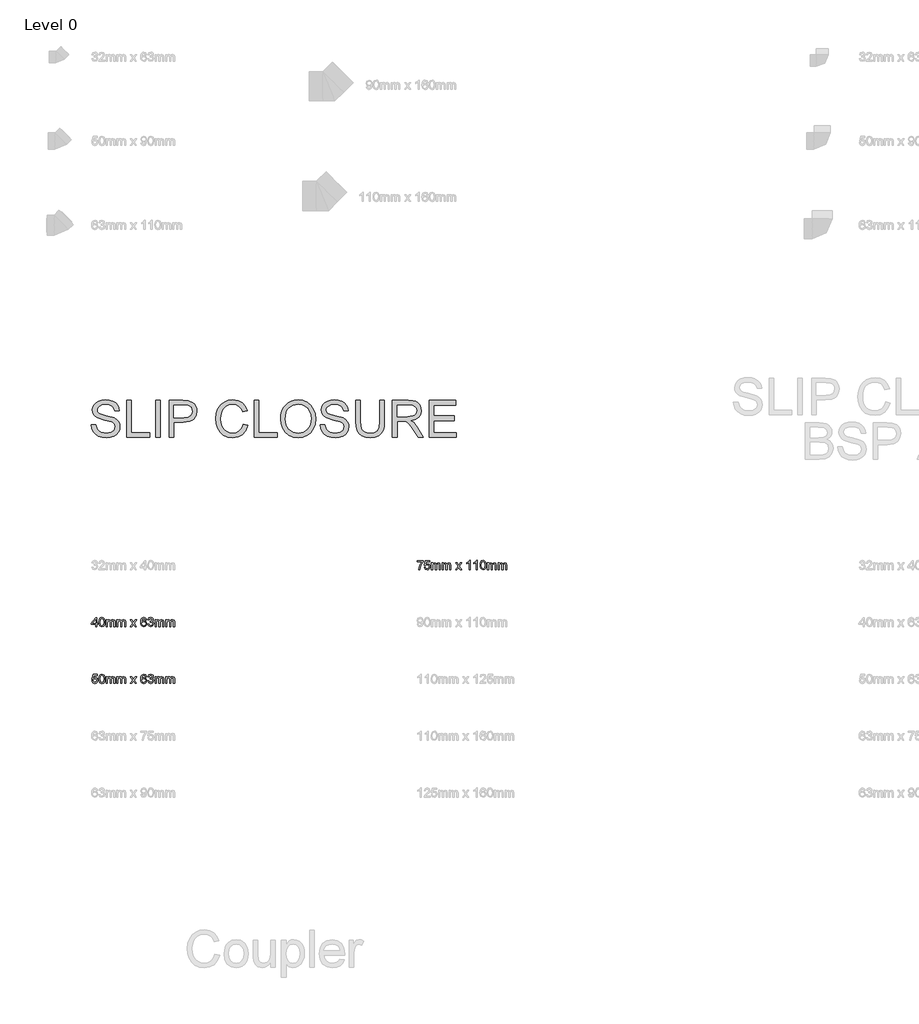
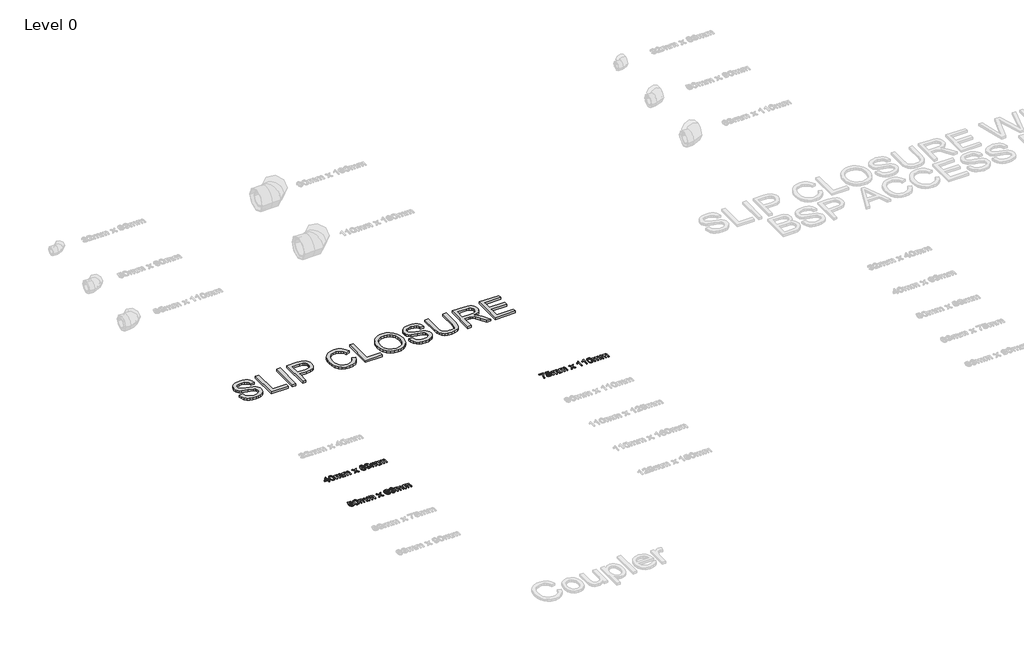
# One storey, part 11 of 21: 4 proxies.
"""IFC4 building model written with IfcOpenShell, lengths in millimetres."""

from ifc_helpers import new_model, si_unit, origin, origin_with_axes, place, context, project, spatial, polyline, outline, extrude, element, save

model = new_model("IFC4")

# Units and contexts
model_context = context("Model", 3, world=origin())
ifc_project = project(units=[si_unit("LENGTHUNIT", "METRE", prefix="MILLI")], contexts=[model_context])

# Site, building, storey
site = spatial("IfcSite", under=ifc_project)
building = spatial("IfcBuilding", under=site)
storey = spatial("IfcBuildingStorey", under=building, Name="Level 0", Elevation=0.0)

# Proxies
placement = place(None, origin())
element("IfcBuildingElementProxy", 1, Name="200mm Arial", ObjectType="200mm Arial", at=placement, inside=storey, context=model_context, shape_type="SweptSolid", body=[
    extrude(outline(polyline([(-7441.2220405, -4384.1475499), (-7416.1079629, -4384.1475499), (-7408.0145591, -4409.2861529), (-7399.884367, -4418.1766344), (-7388.2470332, -4425.1786551), (-7374.0222627, -4429.7219977), (-7358.1297605, -4431.2364452), (-7331.8875115, -4426.650183), (-7314.9404143, -4414.0440933), (-7309.3731334, -4397.195098), (-7313.5424627, -4381.523325), (-7319.8945585, -4375.3245133), (-7330.6121873, -4370.1189831), (-7367.1796576, -4360.5295258), (-7406.5430311, -4348.1441653), (-7419.0448875, -4339.6951421), (-7427.9047123, -4329.4557599), (-7433.1838189, -4317.6467479), (-7434.9435211, -4304.4888352), (-7432.766886, -4289.7796867), (-7426.2369805, -4276.0638197), (-7415.5254831, -4264.4387486), (-7400.8040719, -4256.0019882), (-7383.1334734, -4250.8700344), (-7363.574414, -4249.1593831), (-7342.3844111, -4250.9497421), (-7323.8431586, -4256.3208193), (-7308.612844, -4265.1622499), (-7297.3556549, -4277.3636694), (-7290.2310069, -4292.1647883), (-7287.3983156, -4308.8053173), (-7312.5123931, -4308.8053173), (-7317.1231808, -4293.8202573), (-7326.7371636, -4283.0045267), (-7341.7590117, -4276.4562271), (-7362.5933954, -4274.2734606), (-7383.9182884, -4276.4317017), (-7398.547729, -4282.9064248), (-7407.0090149, -4292.4345685), (-7409.8294436, -4303.7530712), (-7407.8306181, -4313.4038422), (-7401.8341415, -4321.1661523), (-7387.658422, -4328.1068593), (-7360.8275618, -4335.194719), (-7316.3874168, -4347.8008087), (-7302.0706758, -4356.9120195), (-7292.0826796, -4368.1569458), (-7286.2149618, -4381.4129604), (-7284.2590559, -4396.5574358), (-7286.5092674, -4412.0391365), (-7293.259902, -4426.6011321), (-7304.2350482, -4439.1336454), (-7319.1587945, -4448.526899), (-7337.1053045, -4454.3946168), (-7357.1487419, -4456.3505228), (-7381.753916, -4454.2413327), (-7402.0058198, -4447.9137624), (-7418.1374453, -4437.3432864), (-7430.3817844, -4422.5053792), (-7438.2421963, -4404.4301105), (-7441.2220405, -4384.1475499)])), origin_with_axes(), (0.0, 0.0, 1.0), 15.0),
    extrude(outline(polyline([(-7246.5879396, -4453.2112631), (-7246.5879396, -4252.2986428), (-7221.473862, -4252.2986428), (-7221.473862, -4428.0971856), (-7121.0175519, -4428.0971856), (-7121.0175519, -4453.2112631), (-7246.5879396, -4453.2112631)])), origin_with_axes(), (0.0, 0.0, 1.0), 15.0),
    extrude(outline(polyline([(-7089.624955, -4453.2112631), (-7089.624955, -4252.2986428), (-7064.5108774, -4252.2986428), (-7064.5108774, -4453.2112631), (-7089.624955, -4453.2112631)])), origin_with_axes(), (0.0, 0.0, 1.0), 15.0),
    extrude(outline(polyline([(-7014.2827223, -4453.2112631), (-7014.2827223, -4252.2986428), (-6939.8234065, -4252.2986428), (-6909.8042357, -4254.2116292), (-6885.4013967, -4263.6048828), (-6876.5293093, -4271.9312786), (-6869.5824709, -4283.0290521), (-6865.0943106, -4296.1195198), (-6863.5982571, -4310.423998), (-6867.6388277, -4334.1033358), (-6879.7605394, -4353.8340735), (-6889.4680256, -4361.6025149), (-6902.4282017, -4367.1514017), (-6938.1066239, -4371.5905111), (-6989.1686448, -4371.5905111), (-6989.1686448, -4453.2112631), (-7014.2827223, -4453.2112631)]), holes=[polyline([(-6989.1686448, -4346.4764336), (-6936.6350959, -4346.4764336), (-6914.3659725, -4344.1710397), (-6899.6506926, -4337.2548582), (-6891.4469242, -4326.1570847), (-6888.7123347, -4311.3069148), (-6890.3248841, -4300.0252003), (-6895.1625323, -4290.5093194), (-6902.6244054, -4283.3478832), (-6912.1096296, -4279.129503), (-6937.2237071, -4277.4127203), (-6989.1686448, -4277.4127203), (-6989.1686448, -4346.4764336)])]), origin_with_axes(), (0.0, 0.0, 1.0), 15.0),
    extrude(outline(polyline([(-6609.3182221, -4381.7931051), (-6584.2041445, -4388.2678282), (-6595.7924274, -4417.5328409), (-6613.9780607, -4438.9129162), (-6637.8658649, -4451.9911211), (-6666.5606605, -4456.3505228), (-6695.6907832, -4453.0518476), (-6718.8244293, -4443.1558219), (-6736.5563415, -4427.0058023), (-6749.4812622, -4404.9451453), (-6757.372331, -4379.0094647), (-6760.0026873, -4351.234374), (-6757.0289745, -4321.9387045), (-6748.1078361, -4296.6406859), (-6733.705256, -4276.1435274), (-6714.287218, -4261.250438), (-6691.2578051, -4252.1821468), (-6666.0211002, -4249.1593831), (-6638.4851329, -4253.071195), (-6615.7193688, -4264.8066306), (-6598.4350464, -4283.6421888), (-6587.3434042, -4308.8543682), (-6612.4574817, -4314.838582), (-6621.1640223, -4296.52419), (-6633.0588735, -4283.9610198), (-6648.2891881, -4276.6953504), (-6667.0021189, -4274.2734606), (-6688.5722666, -4276.9589992), (-6706.291916, -4285.0156149), (-6719.7380029, -4297.5971791), (-6728.487463, -4313.8575633), (-6733.2883231, -4332.2394003), (-6734.8886097, -4351.1853231), (-6732.9940175, -4374.3864143), (-6727.3102406, -4394.4482457), (-6717.6226814, -4410.6043967), (-6703.716742, -4422.0884463), (-6687.0455563, -4428.9494455), (-6669.0622581, -4431.2364452), (-6648.0991157, -4428.121711), (-6630.6308523, -4418.7775083), (-6617.4422828, -4403.3019391), (-6609.3182221, -4381.7931051)])), origin_with_axes(), (0.0, 0.0, 1.0), 15.0),
    extrude(outline(polyline([(-6549.6722879, -4453.2112631), (-6549.6722879, -4252.2986428), (-6524.5582104, -4252.2986428), (-6524.5582104, -4428.0971856), (-6424.1019002, -4428.0971856), (-6424.1019002, -4453.2112631), (-6549.6722879, -4453.2112631)])), origin_with_axes(), (0.0, 0.0, 1.0), 15.0),
    extrude(outline(polyline([(-6405.2663421, -4355.4037033), (-6403.592479, -4331.8377958), (-6398.5708898, -4310.975821), (-6390.2015744, -4292.8177789), (-6378.4845328, -4277.3636694), (-6364.1218066, -4265.0242941), (-6347.8154372, -4256.2104547), (-6329.5654245, -4250.922151), (-6309.3717687, -4249.1593831), (-6283.0191551, -4252.4703211), (-6259.3888682, -4262.4031349), (-6239.7684952, -4278.2588489), (-6225.4456228, -4299.3384872), (-6216.6900313, -4324.624243), (-6213.7715008, -4353.0983095), (-6216.8433155, -4381.9525206), (-6226.0587595, -4407.5938957), (-6240.9089294, -4428.7103222), (-6260.8849217, -4443.9896877), (-6284.3128734, -4453.260314), (-6309.5189215, -4456.3505228), (-6336.2762052, -4452.9353516), (-6360.0413821, -4442.689838), (-6379.6127043, -4426.5398184), (-6393.7884238, -4405.4111292), (-6402.3968625, -4381.1002607), (-6405.2663421, -4355.4037033)]), holes=[polyline([(-6380.1522645, -4355.648958), (-6375.1306753, -4387.0783431), (-6360.0659076, -4411.027461), (-6337.4227708, -4426.1841992), (-6309.6660743, -4431.2364452), (-6281.5047075, -4426.1351482), (-6258.8247825, -4410.8312572), (-6250.1013807, -4399.5587398), (-6243.8703794, -4386.1463754), (-6238.8855784, -4352.9021057), (-6241.019294, -4330.6697705), (-6247.4204407, -4311.4540676), (-6257.9234716, -4295.7393751), (-6272.3628399, -4284.0100708), (-6289.7820524, -4276.7076132), (-6309.2246159, -4274.2734606), (-6336.239417, -4278.9639561), (-6359.2075163, -4293.0354424), (-6368.3708436, -4303.9845303), (-6374.9160775, -4318.0698122), (-6380.1522645, -4355.648958)])]), origin_with_axes(), (0.0, 0.0, 1.0), 15.0),
    extrude(outline(polyline([(-6188.6574233, -4384.1475499), (-6163.5433458, -4384.1475499), (-6155.4499419, -4409.2861529), (-6147.3197498, -4418.1766344), (-6135.682416, -4425.1786551), (-6121.4576455, -4429.7219977), (-6105.5651433, -4431.2364452), (-6079.3228943, -4426.650183), (-6062.3757971, -4414.0440933), (-6056.8085162, -4397.195098), (-6060.9778455, -4381.523325), (-6067.3299413, -4375.3245133), (-6078.0475701, -4370.1189831), (-6114.6150404, -4360.5295258), (-6153.9784139, -4348.1441653), (-6166.4802704, -4339.6951421), (-6175.3400951, -4329.4557599), (-6180.6192017, -4317.6467479), (-6182.3789039, -4304.4888352), (-6180.2022688, -4289.7796867), (-6173.6723634, -4276.0638197), (-6162.9608659, -4264.4387486), (-6148.2394548, -4256.0019882), (-6130.5688563, -4250.8700344), (-6111.0097969, -4249.1593831), (-6089.8197939, -4250.9497421), (-6071.2785414, -4256.3208193), (-6056.0482268, -4265.1622499), (-6044.7910377, -4277.3636694), (-6037.6663898, -4292.1647883), (-6034.8336984, -4308.8053173), (-6059.9477759, -4308.8053173), (-6064.5585636, -4293.8202573), (-6074.1725464, -4283.0045267), (-6089.1943945, -4276.4562271), (-6110.0287782, -4274.2734606), (-6131.3536712, -4276.4317017), (-6145.9831119, -4282.9064248), (-6154.4443978, -4292.4345685), (-6157.2648264, -4303.7530712), (-6155.2660009, -4313.4038422), (-6149.2695244, -4321.1661523), (-6135.0938048, -4328.1068593), (-6108.2629446, -4335.194719), (-6063.8227996, -4347.8008087), (-6049.5060586, -4356.9120195), (-6039.5180625, -4368.1569458), (-6033.6503446, -4381.4129604), (-6031.6944387, -4396.5574358), (-6033.9446502, -4412.0391365), (-6040.6952848, -4426.6011321), (-6051.670431, -4439.1336454), (-6066.5941773, -4448.526899), (-6084.5406873, -4454.3946168), (-6104.5841247, -4456.3505228), (-6129.1892988, -4454.2413327), (-6149.4412026, -4447.9137624), (-6165.5728281, -4437.3432864), (-6177.8171672, -4422.5053792), (-6185.6775791, -4404.4301105), (-6188.6574233, -4384.1475499)])), origin_with_axes(), (0.0, 0.0, 1.0), 15.0),
    extrude(outline(polyline([(-5862.1744153, -4252.2986428), (-5837.0603378, -4252.2986428), (-5837.0603378, -4368.2059967), (-5838.7648577, -4395.3495566), (-5843.8784174, -4416.2513853), (-5853.4310866, -4432.3768794), (-5868.4529347, -4445.1914356), (-5888.98075, -4453.560751), (-5915.0513208, -4456.3505228), (-5940.5516744, -4453.9225016), (-5960.9384683, -4446.6384381), (-5976.2178338, -4434.7497183), (-5986.3959024, -4418.5077282), (-5992.1164674, -4396.7229827), (-5994.0233224, -4368.2059967), (-5994.0233224, -4252.2986428), (-5968.9092449, -4252.2986428), (-5968.9092449, -4367.3230799), (-5967.6707088, -4389.8926404), (-5963.9551007, -4405.6073329), (-5957.2228601, -4416.4905086), (-5946.934427, -4424.5655184), (-5933.5189969, -4429.5687135), (-5917.4057655, -4431.2364452), (-5891.8624923, -4427.93777), (-5874.8786069, -4418.0417444), (-5865.3504632, -4398.7647278), (-5862.1744153, -4367.3230799), (-5862.1744153, -4252.2986428)])), origin_with_axes(), (0.0, 0.0, 1.0), 15.0),
    extrude(outline(polyline([(-5793.1107021, -4453.2112631), (-5793.1107021, -4252.2986428), (-5706.5358059, -4252.2986428), (-5683.2672697, -4253.6536748), (-5666.3385666, -4257.7187709), (-5653.9654688, -4265.2235636), (-5644.3637487, -4276.8976855), (-5638.2017253, -4291.373842), (-5636.1477175, -4307.2847383), (-5639.5506259, -4327.0767897), (-5649.7593513, -4343.4843267), (-5667.0804619, -4355.5140679), (-5691.8205261, -4362.172732), (-5677.5467047, -4372.9148863), (-5657.1905676, -4398.7647278), (-5623.6887806, -4453.2112631), (-5652.8740855, -4453.2112631), (-5679.0182327, -4411.5670212), (-5697.9028417, -4384.0003971), (-5711.171119, -4370.9773744), (-5723.1150211, -4366.1949085), (-5737.6831482, -4365.3119917), (-5767.9966246, -4365.3119917), (-5767.9966246, -4453.2112631), (-5793.1107021, -4453.2112631)]), holes=[polyline([(-5767.9966246, -4340.1979142), (-5711.7842557, -4340.1979142), (-5683.1139855, -4336.6417216), (-5673.6839437, -4332.0186711), (-5666.8290759, -4325.2619052), (-5661.261795, -4308.2167061), (-5663.9166768, -4295.9662356), (-5671.8813219, -4286.0947354), (-5685.5849263, -4279.5832241), (-5705.4566854, -4277.4127203), (-5767.9966246, -4277.4127203), (-5767.9966246, -4340.1979142)])]), origin_with_axes(), (0.0, 0.0, 1.0), 15.0),
    extrude(outline(polyline([(-5592.1980818, -4453.2112631), (-5592.1980818, -4252.2986428), (-5447.792136, -4252.2986428), (-5447.792136, -4277.4127203), (-5567.0840043, -4277.4127203), (-5567.0840043, -4337.0586545), (-5454.0706553, -4337.0586545), (-5454.0706553, -4362.172732), (-5567.0840043, -4362.172732), (-5567.0840043, -4428.0971856), (-5444.6528763, -4428.0971856), (-5444.6528763, -4453.2112631), (-5592.1980818, -4453.2112631)])), origin_with_axes(), (0.0, 0.0, 1.0), 15.0),
])
element("IfcBuildingElementProxy", 2, Name="50mm", ObjectType="50mm", at=placement, inside=storey, context=model_context, shape_type="SweptSolid", body=[
    extrude(outline(polyline([(-7417.8233808, -5489.4612631), (-7417.8233808, -5477.6890392), (-7440.5830136, -5477.6890392), (-7440.5830136, -5471.4105199), (-7416.253751, -5440.0179229), (-7411.5448614, -5440.0179229), (-7411.5448614, -5471.4105199), (-7405.2663421, -5471.4105199), (-7405.2663421, -5477.6890392), (-7411.5448614, -5477.6890392), (-7411.5448614, -5489.4612631), (-7417.8233808, -5489.4612631)]), holes=[polyline([(-7417.8233808, -5471.4105199), (-7417.8233808, -5452.010876), (-7432.8574917, -5471.4105199), (-7417.8233808, -5471.4105199)])]), origin_with_axes(), (0.0, 0.0, 1.0), 5.0),
    extrude(outline(polyline([(-7399.7726376, -5464.7518557), (-7397.9270963, -5450.3002247), (-7392.4456545, -5441.9676975), (-7383.2915242, -5439.233108), (-7375.9584098, -5440.8517888), (-7370.893901, -5445.5177588), (-7367.950845, -5452.9489751), (-7366.8104108, -5464.7518557), (-7368.6375581, -5479.1421731), (-7374.1006057, -5487.4930944), (-7383.2915242, -5490.246078), (-7394.7694425, -5485.4636121), (-7398.5218388, -5476.9686037), (-7399.7726376, -5464.7518557)]), holes=[polyline([(-7393.4941182, -5464.739593), (-7390.5510623, -5480.3316582), (-7383.2915242, -5483.9675586), (-7376.0319862, -5480.3193955), (-7373.0889302, -5464.739593), (-7375.9338843, -5449.3253374), (-7383.3651006, -5445.5116274), (-7390.4529604, -5448.8716163), (-7393.4941182, -5464.739593)])]), origin_with_axes(), (0.0, 0.0, 1.0), 5.0),
    extrude(outline(polyline([(-7359.7470765, -5489.4612631), (-7359.7470765, -5452.5749617), (-7353.4685571, -5452.5749617), (-7353.4685571, -5458.6450146), (-7349.1520751, -5453.6724763), (-7343.0084457, -5451.7901468), (-7336.7176636, -5453.7092645), (-7333.2595729, -5459.086473), (-7328.360611, -5453.6142283), (-7322.1740621, -5451.7901468), (-7313.9641622, -5454.8251732), (-7311.0885513, -5464.1755073), (-7311.0885513, -5489.4612631), (-7317.3670707, -5489.4612631), (-7317.3670707, -5466.8733086), (-7317.9495505, -5461.6309902), (-7320.0587406, -5459.0496848), (-7323.6455901, -5458.0686662), (-7329.8198762, -5460.5825265), (-7332.2785542, -5468.6391422), (-7332.2785542, -5489.4612631), (-7338.5570736, -5489.4612631), (-7338.5570736, -5466.1743328), (-7340.0102075, -5460.0920171), (-7344.7742793, -5458.0686662), (-7349.4218552, -5459.4175668), (-7352.512064, -5463.3661669), (-7353.4685571, -5470.8586969), (-7353.4685571, -5489.4612631), (-7359.7470765, -5489.4612631)])), origin_with_axes(), (0.0, 0.0, 1.0), 5.0),
    extrude(outline(polyline([(-7301.6707722, -5489.4612631), (-7301.6707722, -5452.5749617), (-7295.3922528, -5452.5749617), (-7295.3922528, -5458.6450146), (-7291.0757708, -5453.6724763), (-7284.9321414, -5451.7901468), (-7278.6413593, -5453.7092645), (-7275.1832686, -5459.086473), (-7270.2843067, -5453.6142283), (-7264.0977578, -5451.7901468), (-7255.8878579, -5454.8251732), (-7253.012247, -5464.1755073), (-7253.012247, -5489.4612631), (-7259.2907664, -5489.4612631), (-7259.2907664, -5466.8733086), (-7259.8732462, -5461.6309902), (-7261.9824363, -5459.0496848), (-7265.5692858, -5458.0686662), (-7271.7435719, -5460.5825265), (-7274.2022499, -5468.6391422), (-7274.2022499, -5489.4612631), (-7280.4807693, -5489.4612631), (-7280.4807693, -5466.1743328), (-7281.9339032, -5460.0920171), (-7286.697975, -5458.0686662), (-7291.3455509, -5459.4175668), (-7294.4357597, -5463.3661669), (-7295.3922528, -5470.8586969), (-7295.3922528, -5489.4612631), (-7301.6707722, -5489.4612631)])), origin_with_axes(), (0.0, 0.0, 1.0), 5.0),
    extrude(outline(polyline([(-7227.8981695, -5489.4612631), (-7214.4827394, -5470.9200105), (-7227.1133545, -5452.5749617), (-7219.5595109, -5452.5749617), (-7213.4649325, -5461.4041296), (-7210.6199784, -5465.5734589), (-7208.155169, -5462.164419), (-7201.2144621, -5452.5749617), (-7193.6606184, -5452.5749617), (-7206.9288957, -5470.9200105), (-7194.1511278, -5489.4612631), (-7201.7049714, -5489.4612631), (-7209.3937051, -5478.3144386), (-7210.8039194, -5476.2788249), (-7220.3443258, -5489.4612631), (-7227.8981695, -5489.4612631)])), origin_with_axes(), (0.0, 0.0, 1.0), 5.0),
    extrude(outline(polyline([(-7138.4292682, -5452.5749617), (-7144.7077876, -5453.3597766), (-7147.0867578, -5448.1235896), (-7153.37754, -5445.5116274), (-7159.0429227, -5447.0322063), (-7163.3287479, -5452.7405086), (-7165.1129756, -5463.9302526), (-7159.5763516, -5458.9209261), (-7152.7153524, -5457.2838512), (-7142.0467745, -5461.7597489), (-7137.6444533, -5473.3235062), (-7139.7168552, -5481.9871272), (-7145.4190261, -5488.1184938), (-7153.6473201, -5490.246078), (-7166.4434822, -5484.6052208), (-7170.1544918, -5477.1372163), (-7171.391495, -5466.0149173), (-7170.0180689, -5453.5099951), (-7165.8977905, -5444.9598044), (-7160.2722617, -5440.6647821), (-7152.9851325, -5439.233108), (-7143.0645814, -5442.7770379), (-7138.4292682, -5452.5749617)]), holes=[polyline([(-7165.1129756, -5473.2254044), (-7163.6598417, -5478.6639265), (-7159.7970808, -5482.6125266), (-7154.1378294, -5483.9675586), (-7146.73727, -5481.1593927), (-7143.9229727, -5473.5319727), (-7146.7004818, -5466.2295151), (-7154.3953468, -5463.5623706), (-7161.99211, -5466.2295151), (-7165.1129756, -5473.2254044)])]), origin_with_axes(), (0.0, 0.0, 1.0), 5.0),
    extrude(outline(polyline([(-7132.1507488, -5476.1194094), (-7125.8722295, -5475.3345945), (-7122.4080073, -5481.9442077), (-7115.9271529, -5483.9675586), (-7108.2997328, -5481.1839182), (-7105.4670415, -5474.2922622), (-7108.2752074, -5467.7991449), (-7115.4121181, -5465.2301023), (-7119.8144393, -5465.9168154), (-7119.1154635, -5459.638296), (-7110.9852714, -5457.9092506), (-7107.8214862, -5452.3664952), (-7110.1146173, -5447.4552706), (-7116.0252547, -5445.5116274), (-7122.0094685, -5447.4736647), (-7125.0874145, -5453.3597766), (-7131.3659339, -5452.5749617), (-7126.2278487, -5442.727987), (-7116.2459839, -5439.233108), (-7108.6737462, -5440.956022), (-7103.3762455, -5445.6649116), (-7101.5429668, -5451.9986132), (-7103.284275, -5457.7866233), (-7108.4346229, -5461.9436899), (-7101.5920178, -5466.2356465), (-7099.1885221, -5474.4026268), (-7103.9955135, -5485.6352903), (-7116.1478821, -5490.246078), (-7127.1598164, -5486.3097407), (-7132.1507488, -5476.1194094)])), origin_with_axes(), (0.0, 0.0, 1.0), 5.0),
    extrude(outline(polyline([(-7092.1251878, -5489.4612631), (-7092.1251878, -5452.5749617), (-7085.8466684, -5452.5749617), (-7085.8466684, -5458.6450146), (-7081.5301863, -5453.6724763), (-7075.386557, -5451.7901468), (-7069.0957749, -5453.7092645), (-7065.6376841, -5459.086473), (-7060.7387222, -5453.6142283), (-7054.5521733, -5451.7901468), (-7046.3422735, -5454.8251732), (-7043.4666625, -5464.1755073), (-7043.4666625, -5489.4612631), (-7049.7451819, -5489.4612631), (-7049.7451819, -5466.8733086), (-7050.3276618, -5461.6309902), (-7052.4368519, -5459.0496848), (-7056.0237013, -5458.0686662), (-7062.1979875, -5460.5825265), (-7064.6566655, -5468.6391422), (-7064.6566655, -5489.4612631), (-7070.9351848, -5489.4612631), (-7070.9351848, -5466.1743328), (-7072.3883187, -5460.0920171), (-7077.1523906, -5458.0686662), (-7081.7999664, -5459.4175668), (-7084.8901752, -5463.3661669), (-7085.8466684, -5470.8586969), (-7085.8466684, -5489.4612631), (-7092.1251878, -5489.4612631)])), origin_with_axes(), (0.0, 0.0, 1.0), 5.0),
    extrude(outline(polyline([(-7034.0488835, -5489.4612631), (-7034.0488835, -5452.5749617), (-7027.7703641, -5452.5749617), (-7027.7703641, -5458.6450146), (-7023.453882, -5453.6724763), (-7017.3102527, -5451.7901468), (-7011.0194706, -5453.7092645), (-7007.5613798, -5459.086473), (-7002.6624179, -5453.6142283), (-6996.475869, -5451.7901468), (-6988.2659692, -5454.8251732), (-6985.3903582, -5464.1755073), (-6985.3903582, -5489.4612631), (-6991.6688776, -5489.4612631), (-6991.6688776, -5466.8733086), (-6992.2513574, -5461.6309902), (-6994.3605476, -5459.0496848), (-6997.947397, -5458.0686662), (-7004.1216832, -5460.5825265), (-7006.5803612, -5468.6391422), (-7006.5803612, -5489.4612631), (-7012.8588805, -5489.4612631), (-7012.8588805, -5466.1743328), (-7014.3120144, -5460.0920171), (-7019.0760863, -5458.0686662), (-7023.7236621, -5459.4175668), (-7026.8138709, -5463.3661669), (-7027.7703641, -5470.8586969), (-7027.7703641, -5489.4612631), (-7034.0488835, -5489.4612631)])), origin_with_axes(), (0.0, 0.0, 1.0), 5.0),
])
element("IfcBuildingElementProxy", 3, Name="50mm", ObjectType="50mm", at=placement, inside=storey, context=model_context, shape_type="SweptSolid", body=[
    extrude(outline(polyline([(-7438.2285688, -5787.3694094), (-7431.9500494, -5786.5845945), (-7428.7862643, -5793.0531862), (-7422.225702, -5795.2175586), (-7414.3530273, -5792.2070576), (-7411.5448614, -5784.217887), (-7414.1752177, -5776.7621452), (-7422.1276002, -5774.0275557), (-7427.6396987, -5775.118939), (-7431.1652345, -5777.9516303), (-7437.4437539, -5777.1668154), (-7431.9500494, -5751.2679229), (-7407.6207868, -5751.2679229), (-7407.6207868, -5757.5464423), (-7426.8732779, -5757.5464423), (-7429.5588165, -5771.3788053), (-7420.3740293, -5767.7490363), (-7409.6380064, -5772.2494594), (-7405.2663421, -5783.8254795), (-7409.2026794, -5795.475076), (-7414.8557994, -5799.9908275), (-7422.2502275, -5801.496078), (-7433.3296069, -5797.6271857), (-7438.2285688, -5787.3694094)])), origin_with_axes(), (0.0, 0.0, 1.0), 5.0),
    extrude(outline(polyline([(-7399.7726376, -5776.0018557), (-7397.9270963, -5761.5502247), (-7392.4456545, -5753.2176975), (-7383.2915242, -5750.483108), (-7375.9584098, -5752.1017888), (-7370.893901, -5756.7677588), (-7367.950845, -5764.1989751), (-7366.8104108, -5776.0018557), (-7368.6375581, -5790.3921731), (-7374.1006057, -5798.7430944), (-7383.2915242, -5801.496078), (-7394.7694425, -5796.7136121), (-7398.5218388, -5788.2186037), (-7399.7726376, -5776.0018557)]), holes=[polyline([(-7393.4941182, -5775.989593), (-7390.5510623, -5791.5816582), (-7383.2915242, -5795.2175586), (-7376.0319862, -5791.5693955), (-7373.0889302, -5775.989593), (-7375.9338843, -5760.5753374), (-7383.3651006, -5756.7616274), (-7390.4529604, -5760.1216163), (-7393.4941182, -5775.989593)])]), origin_with_axes(), (0.0, 0.0, 1.0), 5.0),
    extrude(outline(polyline([(-7359.7470765, -5800.7112631), (-7359.7470765, -5763.8249617), (-7353.4685571, -5763.8249617), (-7353.4685571, -5769.8950146), (-7349.1520751, -5764.9224763), (-7343.0084457, -5763.0401468), (-7336.7176636, -5764.9592645), (-7333.2595729, -5770.336473), (-7328.360611, -5764.8642283), (-7322.1740621, -5763.0401468), (-7313.9641622, -5766.0751732), (-7311.0885513, -5775.4255073), (-7311.0885513, -5800.7112631), (-7317.3670707, -5800.7112631), (-7317.3670707, -5778.1233086), (-7317.9495505, -5772.8809902), (-7320.0587406, -5770.2996848), (-7323.6455901, -5769.3186662), (-7329.8198762, -5771.8325265), (-7332.2785542, -5779.8891422), (-7332.2785542, -5800.7112631), (-7338.5570736, -5800.7112631), (-7338.5570736, -5777.4243328), (-7340.0102075, -5771.3420171), (-7344.7742793, -5769.3186662), (-7349.4218552, -5770.6675668), (-7352.512064, -5774.6161669), (-7353.4685571, -5782.1086969), (-7353.4685571, -5800.7112631), (-7359.7470765, -5800.7112631)])), origin_with_axes(), (0.0, 0.0, 1.0), 5.0),
    extrude(outline(polyline([(-7301.6707722, -5800.7112631), (-7301.6707722, -5763.8249617), (-7295.3922528, -5763.8249617), (-7295.3922528, -5769.8950146), (-7291.0757708, -5764.9224763), (-7284.9321414, -5763.0401468), (-7278.6413593, -5764.9592645), (-7275.1832686, -5770.336473), (-7270.2843067, -5764.8642283), (-7264.0977578, -5763.0401468), (-7255.8878579, -5766.0751732), (-7253.012247, -5775.4255073), (-7253.012247, -5800.7112631), (-7259.2907664, -5800.7112631), (-7259.2907664, -5778.1233086), (-7259.8732462, -5772.8809902), (-7261.9824363, -5770.2996848), (-7265.5692858, -5769.3186662), (-7271.7435719, -5771.8325265), (-7274.2022499, -5779.8891422), (-7274.2022499, -5800.7112631), (-7280.4807693, -5800.7112631), (-7280.4807693, -5777.4243328), (-7281.9339032, -5771.3420171), (-7286.697975, -5769.3186662), (-7291.3455509, -5770.6675668), (-7294.4357597, -5774.6161669), (-7295.3922528, -5782.1086969), (-7295.3922528, -5800.7112631), (-7301.6707722, -5800.7112631)])), origin_with_axes(), (0.0, 0.0, 1.0), 5.0),
    extrude(outline(polyline([(-7227.8981695, -5800.7112631), (-7214.4827394, -5782.1700105), (-7227.1133545, -5763.8249617), (-7219.5595109, -5763.8249617), (-7213.4649325, -5772.6541296), (-7210.6199784, -5776.8234589), (-7208.155169, -5773.414419), (-7201.2144621, -5763.8249617), (-7193.6606184, -5763.8249617), (-7206.9288957, -5782.1700105), (-7194.1511278, -5800.7112631), (-7201.7049714, -5800.7112631), (-7209.3937051, -5789.5644386), (-7210.8039194, -5787.5288249), (-7220.3443258, -5800.7112631), (-7227.8981695, -5800.7112631)])), origin_with_axes(), (0.0, 0.0, 1.0), 5.0),
    extrude(outline(polyline([(-7138.4292682, -5763.8249617), (-7144.7077876, -5764.6097766), (-7147.0867578, -5759.3735896), (-7153.37754, -5756.7616274), (-7159.0429227, -5758.2822063), (-7163.3287479, -5763.9905086), (-7165.1129756, -5775.1802526), (-7159.5763516, -5770.1709261), (-7152.7153524, -5768.5338512), (-7142.0467745, -5773.0097489), (-7137.6444533, -5784.5735062), (-7139.7168552, -5793.2371272), (-7145.4190261, -5799.3684938), (-7153.6473201, -5801.496078), (-7166.4434822, -5795.8552208), (-7170.1544918, -5788.3872163), (-7171.391495, -5777.2649173), (-7170.0180689, -5764.7599951), (-7165.8977905, -5756.2098044), (-7160.2722617, -5751.9147821), (-7152.9851325, -5750.483108), (-7143.0645814, -5754.0270379), (-7138.4292682, -5763.8249617)]), holes=[polyline([(-7165.1129756, -5784.4754044), (-7163.6598417, -5789.9139265), (-7159.7970808, -5793.8625266), (-7154.1378294, -5795.2175586), (-7146.73727, -5792.4093927), (-7143.9229727, -5784.7819727), (-7146.7004818, -5777.4795151), (-7154.3953468, -5774.8123706), (-7161.99211, -5777.4795151), (-7165.1129756, -5784.4754044)])]), origin_with_axes(), (0.0, 0.0, 1.0), 5.0),
    extrude(outline(polyline([(-7132.1507488, -5787.3694094), (-7125.8722295, -5786.5845945), (-7122.4080073, -5793.1942077), (-7115.9271529, -5795.2175586), (-7108.2997328, -5792.4339182), (-7105.4670415, -5785.5422622), (-7108.2752074, -5779.0491449), (-7115.4121181, -5776.4801023), (-7119.8144393, -5777.1668154), (-7119.1154635, -5770.888296), (-7110.9852714, -5769.1592506), (-7107.8214862, -5763.6164952), (-7110.1146173, -5758.7052706), (-7116.0252547, -5756.7616274), (-7122.0094685, -5758.7236647), (-7125.0874145, -5764.6097766), (-7131.3659339, -5763.8249617), (-7126.2278487, -5753.977987), (-7116.2459839, -5750.483108), (-7108.6737462, -5752.206022), (-7103.3762455, -5756.9149116), (-7101.5429668, -5763.2486132), (-7103.284275, -5769.0366233), (-7108.4346229, -5773.1936899), (-7101.5920178, -5777.4856465), (-7099.1885221, -5785.6526268), (-7103.9955135, -5796.8852903), (-7116.1478821, -5801.496078), (-7127.1598164, -5797.5597407), (-7132.1507488, -5787.3694094)])), origin_with_axes(), (0.0, 0.0, 1.0), 5.0),
    extrude(outline(polyline([(-7092.1251878, -5800.7112631), (-7092.1251878, -5763.8249617), (-7085.8466684, -5763.8249617), (-7085.8466684, -5769.8950146), (-7081.5301863, -5764.9224763), (-7075.386557, -5763.0401468), (-7069.0957749, -5764.9592645), (-7065.6376841, -5770.336473), (-7060.7387222, -5764.8642283), (-7054.5521733, -5763.0401468), (-7046.3422735, -5766.0751732), (-7043.4666625, -5775.4255073), (-7043.4666625, -5800.7112631), (-7049.7451819, -5800.7112631), (-7049.7451819, -5778.1233086), (-7050.3276618, -5772.8809902), (-7052.4368519, -5770.2996848), (-7056.0237013, -5769.3186662), (-7062.1979875, -5771.8325265), (-7064.6566655, -5779.8891422), (-7064.6566655, -5800.7112631), (-7070.9351848, -5800.7112631), (-7070.9351848, -5777.4243328), (-7072.3883187, -5771.3420171), (-7077.1523906, -5769.3186662), (-7081.7999664, -5770.6675668), (-7084.8901752, -5774.6161669), (-7085.8466684, -5782.1086969), (-7085.8466684, -5800.7112631), (-7092.1251878, -5800.7112631)])), origin_with_axes(), (0.0, 0.0, 1.0), 5.0),
    extrude(outline(polyline([(-7034.0488835, -5800.7112631), (-7034.0488835, -5763.8249617), (-7027.7703641, -5763.8249617), (-7027.7703641, -5769.8950146), (-7023.453882, -5764.9224763), (-7017.3102527, -5763.0401468), (-7011.0194706, -5764.9592645), (-7007.5613798, -5770.336473), (-7002.6624179, -5764.8642283), (-6996.475869, -5763.0401468), (-6988.2659692, -5766.0751732), (-6985.3903582, -5775.4255073), (-6985.3903582, -5800.7112631), (-6991.6688776, -5800.7112631), (-6991.6688776, -5778.1233086), (-6992.2513574, -5772.8809902), (-6994.3605476, -5770.2996848), (-6997.947397, -5769.3186662), (-7004.1216832, -5771.8325265), (-7006.5803612, -5779.8891422), (-7006.5803612, -5800.7112631), (-7012.8588805, -5800.7112631), (-7012.8588805, -5777.4243328), (-7014.3120144, -5771.3420171), (-7019.0760863, -5769.3186662), (-7023.7236621, -5770.6675668), (-7026.8138709, -5774.6161669), (-7027.7703641, -5782.1086969), (-7027.7703641, -5800.7112631), (-7034.0488835, -5800.7112631)])), origin_with_axes(), (0.0, 0.0, 1.0), 5.0),
])
element("IfcBuildingElementProxy", 4, Name="50mm", ObjectType="50mm", at=placement, inside=storey, context=model_context, shape_type="SweptSolid", body=[
    extrude(outline(polyline([(-5658.2285688, -5135.0464423), (-5658.2285688, -5128.7679229), (-5625.2663421, -5128.7679229), (-5625.2663421, -5133.8446945), (-5634.6166761, -5147.3520951), (-5641.7719809, -5164.5628411), (-5644.1019002, -5178.2112631), (-5650.3804196, -5178.2112631), (-5647.8849534, -5164.0478063), (-5641.0362169, -5148.0388081), (-5631.5448614, -5135.0464423), (-5658.2285688, -5135.0464423)])), origin_with_axes(), (0.0, 0.0, 1.0), 5.0),
    extrude(outline(polyline([(-5619.7726376, -5164.8694094), (-5613.4941182, -5164.0845945), (-5610.3303331, -5170.5531862), (-5603.7697708, -5172.7175586), (-5595.8970961, -5169.7070576), (-5593.0889302, -5161.717887), (-5595.7192865, -5154.2621452), (-5603.6716689, -5151.5275557), (-5609.1837675, -5152.618939), (-5612.7093033, -5155.4516303), (-5618.9878227, -5154.6668154), (-5613.4941182, -5128.7679229), (-5589.1648556, -5128.7679229), (-5589.1648556, -5135.0464423), (-5608.4173467, -5135.0464423), (-5611.1028853, -5148.8788053), (-5601.9180981, -5145.2490363), (-5591.1820752, -5149.7494594), (-5586.8104108, -5161.3254795), (-5590.7467482, -5172.975076), (-5596.3998682, -5177.4908275), (-5603.7942963, -5178.996078), (-5614.8736757, -5175.1271857), (-5619.7726376, -5164.8694094)])), origin_with_axes(), (0.0, 0.0, 1.0), 5.0),
    extrude(outline(polyline([(-5579.7470765, -5178.2112631), (-5579.7470765, -5141.3249617), (-5573.4685571, -5141.3249617), (-5573.4685571, -5147.3950146), (-5569.1520751, -5142.4224763), (-5563.0084457, -5140.5401468), (-5556.7176636, -5142.4592645), (-5553.2595729, -5147.836473), (-5548.360611, -5142.3642283), (-5542.1740621, -5140.5401468), (-5533.9641622, -5143.5751732), (-5531.0885513, -5152.9255073), (-5531.0885513, -5178.2112631), (-5537.3670707, -5178.2112631), (-5537.3670707, -5155.6233086), (-5537.9495505, -5150.3809902), (-5540.0587406, -5147.7996848), (-5543.6455901, -5146.8186662), (-5549.8198762, -5149.3325265), (-5552.2785542, -5157.3891422), (-5552.2785542, -5178.2112631), (-5558.5570736, -5178.2112631), (-5558.5570736, -5154.9243328), (-5560.0102075, -5148.8420171), (-5564.7742793, -5146.8186662), (-5569.4218552, -5148.1675668), (-5572.512064, -5152.1161669), (-5573.4685571, -5159.6086969), (-5573.4685571, -5178.2112631), (-5579.7470765, -5178.2112631)])), origin_with_axes(), (0.0, 0.0, 1.0), 5.0),
    extrude(outline(polyline([(-5521.6707722, -5178.2112631), (-5521.6707722, -5141.3249617), (-5515.3922528, -5141.3249617), (-5515.3922528, -5147.3950146), (-5511.0757708, -5142.4224763), (-5504.9321414, -5140.5401468), (-5498.6413593, -5142.4592645), (-5495.1832686, -5147.836473), (-5490.2843067, -5142.3642283), (-5484.0977578, -5140.5401468), (-5475.8878579, -5143.5751732), (-5473.012247, -5152.9255073), (-5473.012247, -5178.2112631), (-5479.2907664, -5178.2112631), (-5479.2907664, -5155.6233086), (-5479.8732462, -5150.3809902), (-5481.9824363, -5147.7996848), (-5485.5692858, -5146.8186662), (-5491.7435719, -5149.3325265), (-5494.2022499, -5157.3891422), (-5494.2022499, -5178.2112631), (-5500.4807693, -5178.2112631), (-5500.4807693, -5154.9243328), (-5501.9339032, -5148.8420171), (-5506.697975, -5146.8186662), (-5511.3455509, -5148.1675668), (-5514.4357597, -5152.1161669), (-5515.3922528, -5159.6086969), (-5515.3922528, -5178.2112631), (-5521.6707722, -5178.2112631)])), origin_with_axes(), (0.0, 0.0, 1.0), 5.0),
    extrude(outline(polyline([(-5447.8981695, -5178.2112631), (-5434.4827394, -5159.6700105), (-5447.1133545, -5141.3249617), (-5439.5595109, -5141.3249617), (-5433.4649325, -5150.1541296), (-5430.6199784, -5154.3234589), (-5428.155169, -5150.914419), (-5421.2144621, -5141.3249617), (-5413.6606184, -5141.3249617), (-5426.9288957, -5159.6700105), (-5414.1511278, -5178.2112631), (-5421.7049714, -5178.2112631), (-5429.3937051, -5167.0644386), (-5430.8039194, -5165.0288249), (-5440.3443258, -5178.2112631), (-5447.8981695, -5178.2112631)])), origin_with_axes(), (0.0, 0.0, 1.0), 5.0),
    extrude(outline(polyline([(-5367.0622324, -5178.2112631), (-5373.3407518, -5178.2112631), (-5373.3407518, -5139.0686188), (-5379.2881774, -5143.3053931), (-5385.8977905, -5146.4753096), (-5385.8977905, -5140.5401468), (-5376.6946093, -5134.6662976), (-5371.1089343, -5127.983108), (-5367.0622324, -5127.983108), (-5367.0622324, -5178.2112631)])), origin_with_axes(), (0.0, 0.0, 1.0), 5.0),
    extrude(outline(polyline([(-5328.6063012, -5178.2112631), (-5334.8848205, -5178.2112631), (-5334.8848205, -5139.0686188), (-5340.8322461, -5143.3053931), (-5347.4418593, -5146.4753096), (-5347.4418593, -5140.5401468), (-5338.2386781, -5134.6662976), (-5332.6530031, -5127.983108), (-5328.6063012, -5127.983108), (-5328.6063012, -5178.2112631)])), origin_with_axes(), (0.0, 0.0, 1.0), 5.0),
    extrude(outline(polyline([(-5313.6948176, -5153.5018557), (-5311.8492763, -5139.0502247), (-5306.3678345, -5130.7176975), (-5297.2137042, -5127.983108), (-5289.8805898, -5129.6017888), (-5284.816081, -5134.2677588), (-5281.873025, -5141.6989751), (-5280.7325908, -5153.5018557), (-5282.5597381, -5167.8921731), (-5288.0227857, -5176.2430944), (-5297.2137042, -5178.996078), (-5308.6916225, -5174.2136121), (-5312.4440188, -5165.7186037), (-5313.6948176, -5153.5018557)]), holes=[polyline([(-5307.4162982, -5153.489593), (-5304.4732423, -5169.0816582), (-5297.2137042, -5172.7175586), (-5289.9541662, -5169.0693955), (-5287.0111102, -5153.489593), (-5289.8560643, -5138.0753374), (-5297.2872806, -5134.2616274), (-5304.3751404, -5137.6216163), (-5307.4162982, -5153.489593)])]), origin_with_axes(), (0.0, 0.0, 1.0), 5.0),
    extrude(outline(polyline([(-5273.6692565, -5178.2112631), (-5273.6692565, -5141.3249617), (-5267.3907372, -5141.3249617), (-5267.3907372, -5147.3950146), (-5263.0742551, -5142.4224763), (-5256.9306258, -5140.5401468), (-5250.6398436, -5142.4592645), (-5247.1817529, -5147.836473), (-5242.282791, -5142.3642283), (-5236.0962421, -5140.5401468), (-5227.8863422, -5143.5751732), (-5225.0107313, -5152.9255073), (-5225.0107313, -5178.2112631), (-5231.2892507, -5178.2112631), (-5231.2892507, -5155.6233086), (-5231.8717305, -5150.3809902), (-5233.9809206, -5147.7996848), (-5237.5677701, -5146.8186662), (-5243.7420562, -5149.3325265), (-5246.2007342, -5157.3891422), (-5246.2007342, -5178.2112631), (-5252.4792536, -5178.2112631), (-5252.4792536, -5154.9243328), (-5253.9323875, -5148.8420171), (-5258.6964593, -5146.8186662), (-5263.3440352, -5148.1675668), (-5266.434244, -5152.1161669), (-5267.3907372, -5159.6086969), (-5267.3907372, -5178.2112631), (-5273.6692565, -5178.2112631)])), origin_with_axes(), (0.0, 0.0, 1.0), 5.0),
    extrude(outline(polyline([(-5215.5929522, -5178.2112631), (-5215.5929522, -5141.3249617), (-5209.3144329, -5141.3249617), (-5209.3144329, -5147.3950146), (-5204.9979508, -5142.4224763), (-5198.8543215, -5140.5401468), (-5192.5635393, -5142.4592645), (-5189.1054486, -5147.836473), (-5184.2064867, -5142.3642283), (-5178.0199378, -5140.5401468), (-5169.8100379, -5143.5751732), (-5166.934427, -5152.9255073), (-5166.934427, -5178.2112631), (-5173.2129464, -5178.2112631), (-5173.2129464, -5155.6233086), (-5173.7954262, -5150.3809902), (-5175.9046163, -5147.7996848), (-5179.4914658, -5146.8186662), (-5185.6657519, -5149.3325265), (-5188.1244299, -5157.3891422), (-5188.1244299, -5178.2112631), (-5194.4029493, -5178.2112631), (-5194.4029493, -5154.9243328), (-5195.8560832, -5148.8420171), (-5200.620155, -5146.8186662), (-5205.2677309, -5148.1675668), (-5208.3579397, -5152.1161669), (-5209.3144329, -5159.6086969), (-5209.3144329, -5178.2112631), (-5215.5929522, -5178.2112631)])), origin_with_axes(), (0.0, 0.0, 1.0), 5.0),
])

save(model, "model.ifc")
